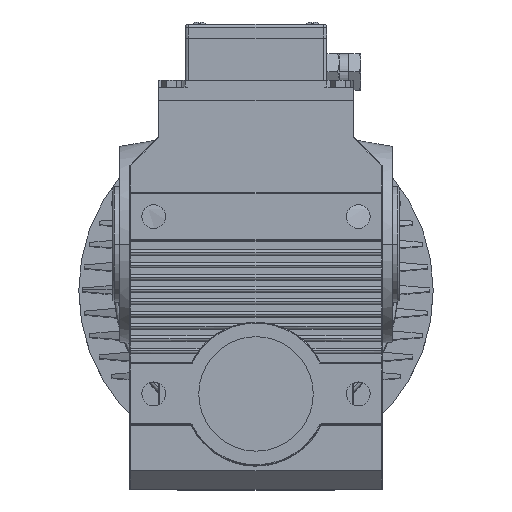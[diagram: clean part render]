
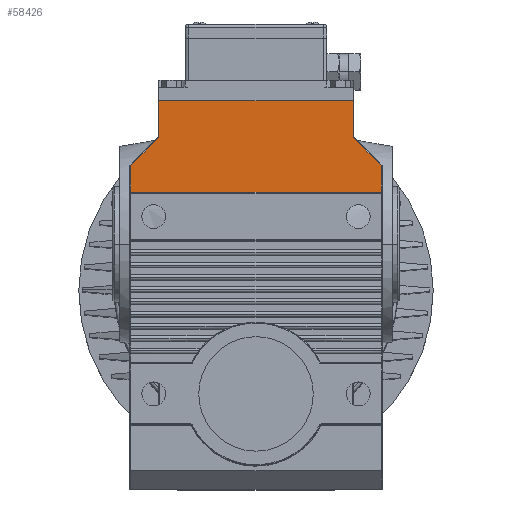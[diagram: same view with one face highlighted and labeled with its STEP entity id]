
A CAD part, top view. The second image highlights one B-rep face of the part: STEP entity #58426.
In plain terms, the highlighted planar face has unit normal (0, 0, 1).
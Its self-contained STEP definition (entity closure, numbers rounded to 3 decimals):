
#1194 = DIRECTION ( 'NONE',  ( -1., 0., 0. ) ) ;
#1680 = EDGE_CURVE ( 'NONE', #77875, #39700, #78761, .T. ) ;
#3976 = DIRECTION ( 'NONE',  ( 1., 0., 0. ) ) ;
#5186 = ORIENTED_EDGE ( 'NONE', *, *, #30332, .F. ) ;
#7604 = CARTESIAN_POINT ( 'NONE',  ( 92.499, 64.26, 113.75 ) ) ;
#8532 = ORIENTED_EDGE ( 'NONE', *, *, #13871, .F. ) ;
#8842 = VERTEX_POINT ( 'NONE', #67647 ) ;
#9533 = LINE ( 'NONE', #17789, #49273 ) ;
#10111 = ORIENTED_EDGE ( 'NONE', *, *, #45095, .F. ) ;
#10399 = VERTEX_POINT ( 'NONE', #45259 ) ;
#11145 = EDGE_CURVE ( 'NONE', #8842, #70685, #52717, .T. ) ;
#11287 = ORIENTED_EDGE ( 'NONE', *, *, #46344, .T. ) ;
#11343 = VERTEX_POINT ( 'NONE', #37826 ) ;
#12283 = DIRECTION ( 'NONE',  ( -1., 0., 0. ) ) ;
#13871 = EDGE_CURVE ( 'NONE', #45320, #11343, #54295, .T. ) ;
#14992 = VECTOR ( 'NONE', #21629, 1000. ) ;
#17789 = CARTESIAN_POINT ( 'NONE',  ( 71.999, 105.01, 113.75 ) ) ;
#19421 = CARTESIAN_POINT ( 'NONE',  ( -71.001, 105.01, 113.75 ) ) ;
#20020 = EDGE_CURVE ( 'NONE', #41640, #70685, #9533, .T. ) ;
#21531 = VECTOR ( 'NONE', #71507, 1000. ) ;
#21629 = DIRECTION ( 'NONE',  ( 0.707, 0.707, 0. ) ) ;
#23268 = LINE ( 'NONE', #30922, #50044 ) ;
#23390 = CARTESIAN_POINT ( 'NONE',  ( -71.101, 131.16, 113.75 ) ) ;
#23689 = VECTOR ( 'NONE', #33567, 1000. ) ;
#24916 = LINE ( 'NONE', #33838, #14992 ) ;
#24949 = CARTESIAN_POINT ( 'NONE',  ( 71.999, 131.16, 113.75 ) ) ;
#27116 = CARTESIAN_POINT ( 'NONE',  ( -91.501, 63.76, 113.75 ) ) ;
#30067 = VECTOR ( 'NONE', #77440, 1000. ) ;
#30332 = EDGE_CURVE ( 'NONE', #11343, #10399, #24916, .T. ) ;
#30922 = CARTESIAN_POINT ( 'NONE',  ( 92.999, 64.26, 113.75 ) ) ;
#32412 = FACE_OUTER_BOUND ( 'NONE', #35991, .T. ) ;
#32956 = ORIENTED_EDGE ( 'NONE', *, *, #20020, .T. ) ;
#33567 = DIRECTION ( 'NONE',  ( 0., -1., 0. ) ) ;
#33838 = CARTESIAN_POINT ( 'NONE',  ( -91.501, 83.803, 113.75 ) ) ;
#34592 = ORIENTED_EDGE ( 'NONE', *, *, #11145, .F. ) ;
#35991 = EDGE_LOOP ( 'NONE', ( #32956, #34592, #11287, #5186, #8532, #75906, #74096, #10111 ) ) ;
#36415 = DIRECTION ( 'NONE',  ( 0., 1., 0. ) ) ;
#37570 = DIRECTION ( 'NONE',  ( 0., 0., -1. ) ) ;
#37826 = CARTESIAN_POINT ( 'NONE',  ( -91.501, 83.803, 113.75 ) ) ;
#39700 = VERTEX_POINT ( 'NONE', #7604 ) ;
#41640 = VERTEX_POINT ( 'NONE', #55440 ) ;
#43774 = CARTESIAN_POINT ( 'NONE',  ( 92.499, 83.803, 113.75 ) ) ;
#44051 = LINE ( 'NONE', #64711, #30067 ) ;
#44967 = VECTOR ( 'NONE', #60523, 1000. ) ;
#45095 = EDGE_CURVE ( 'NONE', #41640, #77875, #44051, .T. ) ;
#45259 = CARTESIAN_POINT ( 'NONE',  ( -71.001, 104.303, 113.75 ) ) ;
#45320 = VERTEX_POINT ( 'NONE', #75124 ) ;
#46344 = EDGE_CURVE ( 'NONE', #8842, #10399, #79350, .T. ) ;
#49273 = VECTOR ( 'NONE', #36415, 1000. ) ;
#50044 = VECTOR ( 'NONE', #12283, 1000. ) ;
#52717 = LINE ( 'NONE', #23390, #58671 ) ;
#54295 = LINE ( 'NONE', #27116, #21531 ) ;
#55440 = CARTESIAN_POINT ( 'NONE',  ( 71.999, 104.303, 113.75 ) ) ;
#58426 = ADVANCED_FACE ( 'NONE', ( #32412 ), #75588, .F. ) ;
#58671 = VECTOR ( 'NONE', #3976, 1000. ) ;
#59979 = CARTESIAN_POINT ( 'NONE',  ( 92.499, 63.76, 113.75 ) ) ;
#60523 = DIRECTION ( 'NONE',  ( 0., -1., 0. ) ) ;
#61875 = EDGE_CURVE ( 'NONE', #39700, #45320, #23268, .T. ) ;
#64711 = CARTESIAN_POINT ( 'NONE',  ( 71.999, 104.303, 113.75 ) ) ;
#67647 = CARTESIAN_POINT ( 'NONE',  ( -71.001, 131.16, 113.75 ) ) ;
#68311 = AXIS2_PLACEMENT_3D ( 'NONE', #69473, #37570, #1194 ) ;
#69473 = CARTESIAN_POINT ( 'NONE',  ( 92.999, 63.76, 113.75 ) ) ;
#70685 = VERTEX_POINT ( 'NONE', #24949 ) ;
#71507 = DIRECTION ( 'NONE',  ( 0., 1., 0. ) ) ;
#74096 = ORIENTED_EDGE ( 'NONE', *, *, #1680, .F. ) ;
#75124 = CARTESIAN_POINT ( 'NONE',  ( -91.501, 64.26, 113.75 ) ) ;
#75588 = PLANE ( 'NONE',  #68311 ) ;
#75906 = ORIENTED_EDGE ( 'NONE', *, *, #61875, .F. ) ;
#77440 = DIRECTION ( 'NONE',  ( 0.707, -0.707, 0. ) ) ;
#77875 = VERTEX_POINT ( 'NONE', #43774 ) ;
#78761 = LINE ( 'NONE', #59979, #44967 ) ;
#79350 = LINE ( 'NONE', #19421, #23689 ) ;
